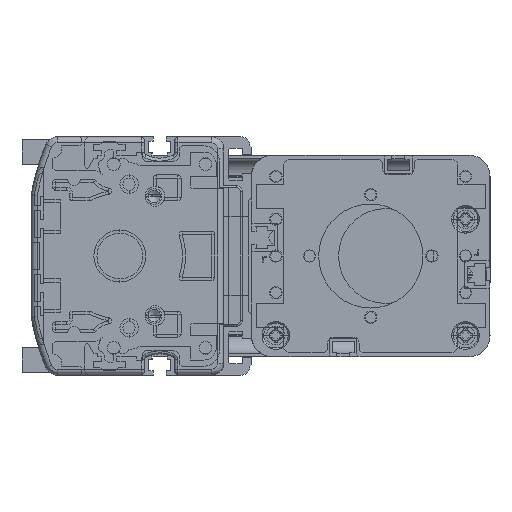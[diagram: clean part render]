
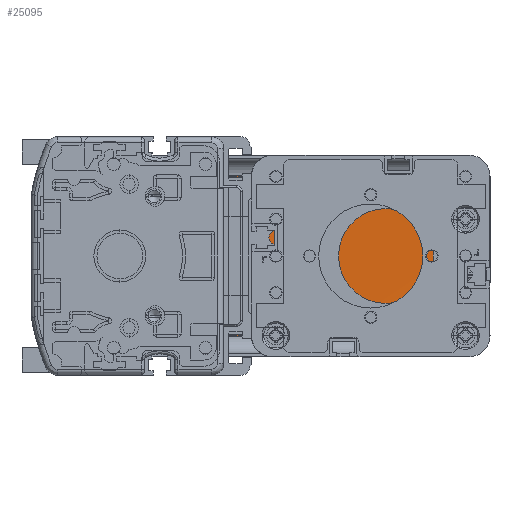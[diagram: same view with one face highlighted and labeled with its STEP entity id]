
A CAD part, left-side view. The second image highlights one B-rep face of the part: STEP entity #25095.
In plain terms, the highlighted spherical face has radius 998.8 mm.
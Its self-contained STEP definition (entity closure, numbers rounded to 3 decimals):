
#7090=CARTESIAN_POINT('',(329.,-67.569,0.));
#7091=DIRECTION('',(0.,1.,0.));
#7092=DIRECTION('',(1.,0.,0.026));
#7093=AXIS2_PLACEMENT_3D('',#7090,#7091,#7092);
#7113=CARTESIAN_POINT('',(329.,-67.569,0.));
#7114=DIRECTION('',(0.,1.,0.));
#7115=DIRECTION('',(1.,0.,-0.007));
#7116=AXIS2_PLACEMENT_3D('',#7113,#7114,#7115);
#7125=CARTESIAN_POINT('',(1325.688,-67.569,
-6.777));
#7126=CARTESIAN_POINT('',(1325.741,-66.776,
-6.493));
#7127=CARTESIAN_POINT('',(1325.841,-65.292,
-5.643));
#7128=CARTESIAN_POINT('',(1325.952,-63.641,
-3.684));
#7129=CARTESIAN_POINT('',(1326.011,-62.764,
-1.279));
#7130=CARTESIAN_POINT('',(1326.011,-62.764,1.28));
#7131=CARTESIAN_POINT('',(1325.952,-63.642,3.684));
#7132=CARTESIAN_POINT('',(1325.841,-65.293,5.644));
#7133=CARTESIAN_POINT('',(1325.741,-66.776,6.493));
#7134=CARTESIAN_POINT('',(1325.688,-67.569,6.777));
#7150=CARTESIAN_POINT('',(1325.688,61.569,6.777));
#7151=CARTESIAN_POINT('',(1325.741,60.779,6.494));
#7152=CARTESIAN_POINT('',(1325.84,59.299,5.648));
#7153=CARTESIAN_POINT('',(1325.952,57.642,3.687));
#7154=CARTESIAN_POINT('',(1326.011,56.764,1.28));
#7155=CARTESIAN_POINT('',(1326.011,56.764,-1.281));
#7156=CARTESIAN_POINT('',(1325.952,57.643,-3.688));
#7157=CARTESIAN_POINT('',(1325.84,59.3,-5.649));
#7158=CARTESIAN_POINT('',(1325.741,60.78,-6.494));
#7159=CARTESIAN_POINT('',(1325.688,61.569,-6.777));
#7161=CARTESIAN_POINT('',(329.,-3.,-26.152));
#7162=DIRECTION('',(0.,0.,1.));
#7163=DIRECTION('',(0.998,-0.065,0.));
#7164=AXIS2_PLACEMENT_3D('',#7161,#7162,#7163);
#7197=CARTESIAN_POINT('',(329.,61.569,0.));
#7198=DIRECTION('',(0.,-1.,0.));
#7199=DIRECTION('',(1.,0.,-0.026));
#7200=AXIS2_PLACEMENT_3D('',#7197,#7198,#7199);
#7211=CARTESIAN_POINT('',(329.,61.569,0.));
#7212=DIRECTION('',(0.,-1.,0.));
#7213=DIRECTION('',(1.,0.,0.007));
#7214=AXIS2_PLACEMENT_3D('',#7211,#7212,#7213);
#7291=CARTESIAN_POINT('',(329.,-3.,26.152));
#7292=DIRECTION('',(0.,0.,-1.));
#7293=DIRECTION('',(0.998,0.065,0.));
#7294=AXIS2_PLACEMENT_3D('',#7291,#7292,#7293);
#13340=VERTEX_POINT('',#7125);
#13341=VERTEX_POINT('',#7134);
#13342=CARTESIAN_POINT('',(1325.368,-67.569,
26.152));
#13343=VERTEX_POINT('',#13342);
#13344=CARTESIAN_POINT('',(1325.368,61.569,26.152));
#13345=VERTEX_POINT('',#13344);
#13346=CARTESIAN_POINT('',(1325.688,61.569,6.777));
#13347=VERTEX_POINT('',#13346);
#13348=VERTEX_POINT('',#7159);
#13349=CARTESIAN_POINT('',(1325.368,61.569,
-26.152));
#13350=VERTEX_POINT('',#13349);
#13351=CARTESIAN_POINT('',(1325.368,-67.569,
-26.152));
#13352=VERTEX_POINT('',#13351);
#25075=CARTESIAN_POINT('',(329.,-3.,0.));
#25076=DIRECTION('',(0.,-1.,0.));
#25077=DIRECTION('',(1.,0.,0.));
#25078=AXIS2_PLACEMENT_3D('',#25075,#25076,#25077);
#25079=SPHERICAL_SURFACE('',#25078,998.8);
#25080=ORIENTED_EDGE('',*,*,#25066,.F.);
#25081=ORIENTED_EDGE('',*,*,#25052,.T.);
#25083=ORIENTED_EDGE('',*,*,#25082,.T.);
#25085=ORIENTED_EDGE('',*,*,#25084,.T.);
#25087=ORIENTED_EDGE('',*,*,#25086,.F.);
#25089=ORIENTED_EDGE('',*,*,#25088,.T.);
#25091=ORIENTED_EDGE('',*,*,#25090,.T.);
#25092=ORIENTED_EDGE('',*,*,#25046,.T.);
#25093=EDGE_LOOP('',(#25080,#25081,#25083,#25085,#25087,#25089,#25091,#25092));
#25094=FACE_OUTER_BOUND('',#25093,.F.);
#25095=ADVANCED_FACE('',(#25094),#25079,.F.);
#7094=CIRCLE('',#7093,996.711);
#7117=CIRCLE('',#7116,996.711);
#7135=B_SPLINE_CURVE_WITH_KNOTS('',3,(#7125,#7126,#7127,#7128,#7129,#7130,#7131,
#7132,#7133,#7134),.UNSPECIFIED.,.F.,.F.,(4,1,1,1,1,1,1,4),(0.,
0.143,0.286,0.429,0.571,
0.714,0.857,1.),.UNSPECIFIED.);
#7160=B_SPLINE_CURVE_WITH_KNOTS('',3,(#7150,#7151,#7152,#7153,#7154,#7155,#7156,
#7157,#7158,#7159),.UNSPECIFIED.,.F.,.F.,(4,1,1,1,1,1,1,4),(0.,
0.143,0.286,0.429,0.571,
0.714,0.857,1.),.UNSPECIFIED.);
#7165=CIRCLE('',#7164,998.458);
#7201=CIRCLE('',#7200,996.711);
#7215=CIRCLE('',#7214,996.711);
#7295=CIRCLE('',#7294,998.458);
#25046=EDGE_CURVE('',#13343,#13341,#7094,.T.);
#25052=EDGE_CURVE('',#13340,#13352,#7117,.T.);
#25066=EDGE_CURVE('',#13340,#13341,#7135,.T.);
#25082=EDGE_CURVE('',#13352,#13350,#7165,.T.);
#25084=EDGE_CURVE('',#13350,#13348,#7201,.T.);
#25086=EDGE_CURVE('',#13347,#13348,#7160,.T.);
#25088=EDGE_CURVE('',#13347,#13345,#7215,.T.);
#25090=EDGE_CURVE('',#13345,#13343,#7295,.T.);
